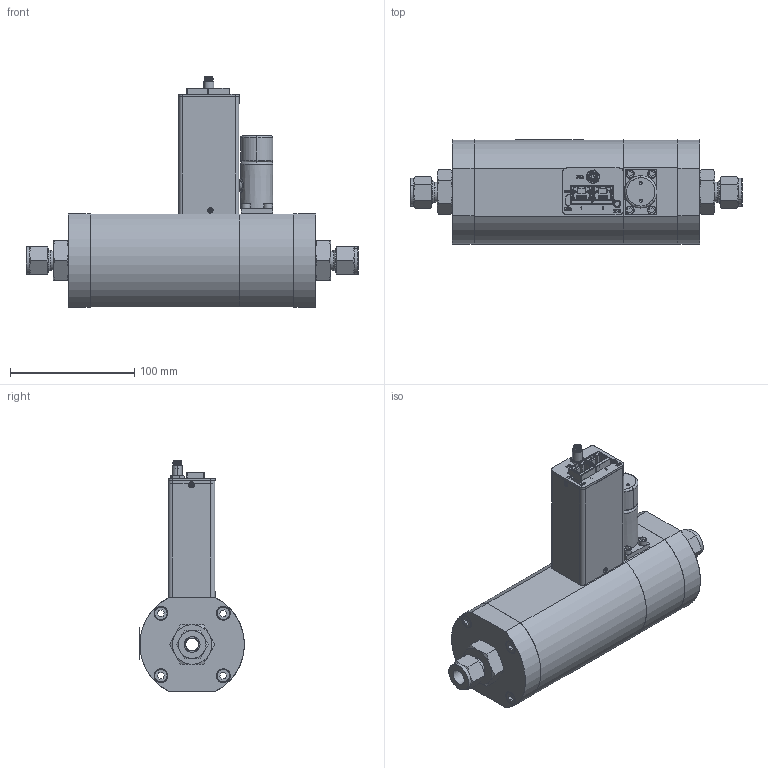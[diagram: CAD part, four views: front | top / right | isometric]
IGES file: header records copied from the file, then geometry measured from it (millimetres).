
Start section: SolidWorks IGES file using analytic representation for surfaces
Global section: file name: G:\Engineering\CAD MODELS FOR SALES\CAD MODEL STORAGE\SLA\SLA5853\IGES\SLA5853-7-2D-2-A-REVB.IGS; native system: SolidWorks 2020; preprocessor: SolidWorks 2020; author: SThen; date: 210706.160251; units: inch
Bounding box: 266.87 x 84.17 x 184.93 mm (x, y, z)
Surface area: 201959.1 mm2 (no closed solid volume)
Topology: 0 solids, 0 shells, 2526 faces, 23834 edges, 23782 vertices
Faces by surface type: bspline 1778, revolution 748
